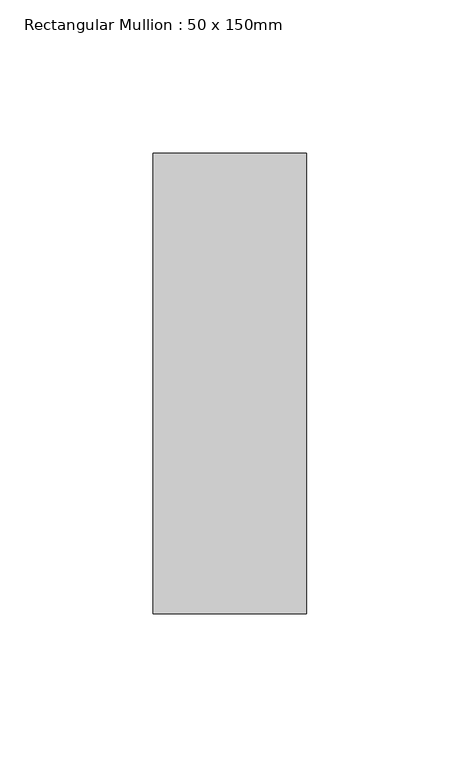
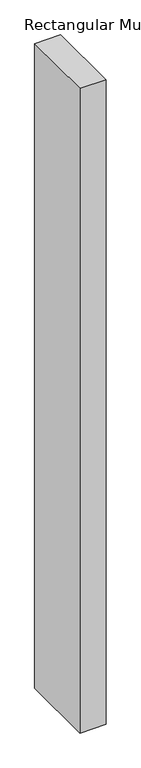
"""IFC4 building model written with IfcOpenShell, lengths in millimetres: member geometry, Rectangular Mullion : 50 x 150mm."""

from ifc_helpers import new_model, si_unit, frame, origin, place, context, project, spatial, polyline, outline, extrude, source, transform, mapped, element, save


def rectangular_mullion_50_x_150mm_49497ffb(model_context):
    return source(origin(), model_context, "Body", "SweptSolid", [
        extrude(outline(polyline([(25.0, 75.0), (25.0, -75.0), (-25.0, -75.0), (-25.0, 75.0), (25.0, 75.0)])), frame((0.0, 0.0, -1307.6887202), z_axis=(0.0, 0.0, 1.0), x_axis=(1.0, 0.0, 0.0)), (0.0, 0.0, 1.0), 1307.6887202),
    ])


if __name__ == "__main__":
    model = new_model("IFC4")
    model_context = context("Model", 3, world=origin())
    ifc_project = project(units=[si_unit("LENGTHUNIT", "METRE", prefix="MILLI")], contexts=[model_context])
    site = spatial("IfcSite", under=ifc_project)
    building = spatial("IfcBuilding", under=site)
    placement = place(None, origin())
    rectangular_mullion_50_x_150mm_shape = rectangular_mullion_50_x_150mm_49497ffb(model_context)
    element("IfcMember", 1, ObjectType="Rectangular Mullion : 50 x 150mm", at=placement, inside=building, context=model_context, shape_type="MappedRepresentation", body=[
        mapped(rectangular_mullion_50_x_150mm_shape, transform((0.0, 0.0, 0.0), x_axis=(1.0, 0.0, 0.0), y_axis=(0.0, 1.0, 0.0), z_axis=(0.0, 0.0, 1.0))),
    ])
    save(model, "model.ifc")
